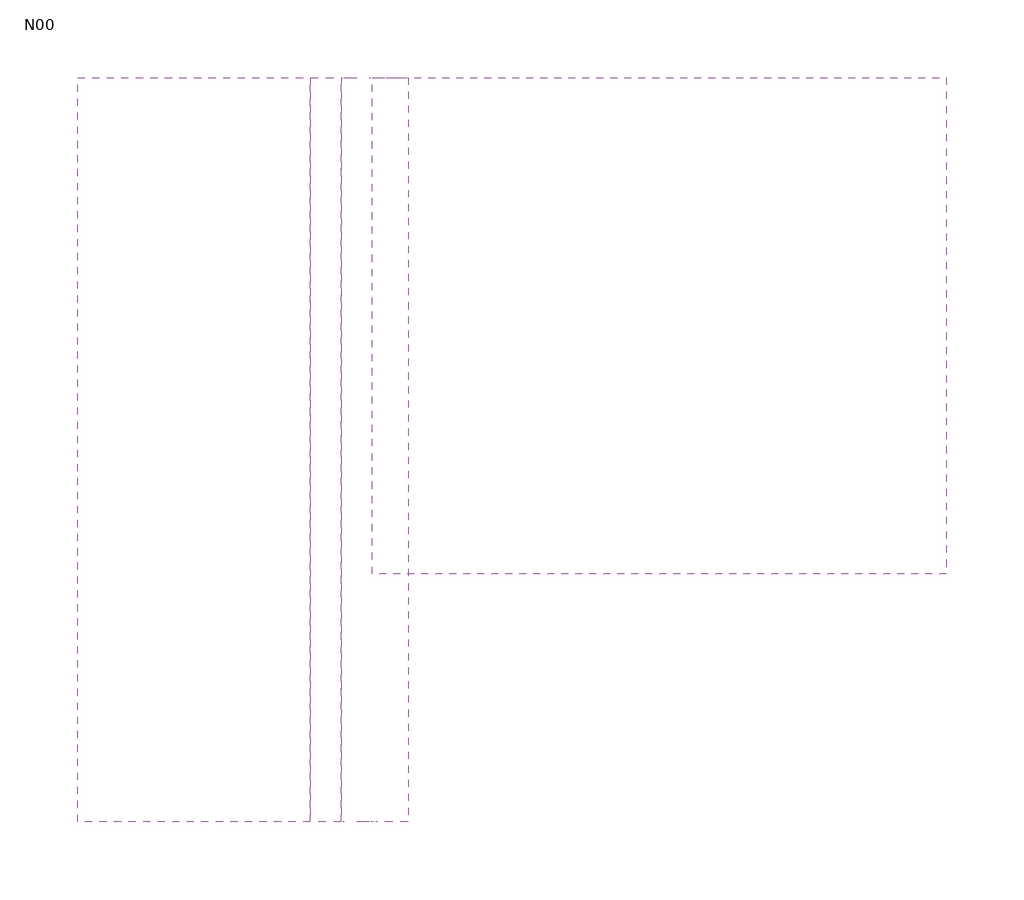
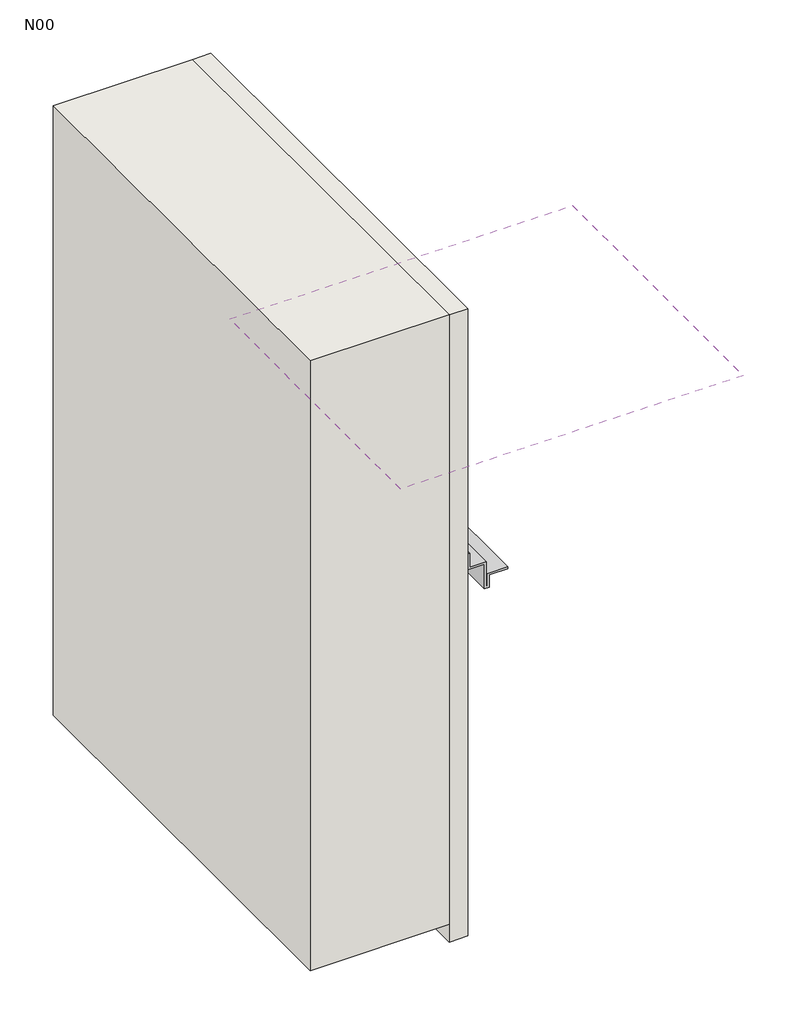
# One storey: 2 walls, 1 covering, 1 proxy.
"""IFC4 building model written with IfcOpenShell, lengths in millimetres."""

from ifc_helpers import new_model, si_unit, frame, origin, place, context, project, spatial, polyline, outline, extrude, faceted_brep, element, save

model = new_model("IFC4")

# Units and contexts
model_context = context("Model", 3, world=origin())
ifc_project = project(units=[si_unit("LENGTHUNIT", "METRE", prefix="MILLI")], contexts=[model_context])

# Site, building, storey
site = spatial("IfcSite", under=ifc_project)
building = spatial("IfcBuilding", under=site)
storey = spatial("IfcBuildingStorey", under=building, Name="N00", Elevation=0.0)

# Proxy
placement = place(None, origin())
element("IfcBuildingElementProxy", 1, Name="ARQ_Tabica_2cm", ObjectType="ARQ_Tabica_2cm", at=placement, inside=storey, context=model_context, shape_type="SweptSolid", body=[
    extrude(outline(polyline([(3030.0, 2172.1983501), (3012.0, 2172.1983501), (3012.0, 2190.1983501), (2984.0, 2190.1983501), (2984.0, 2195.2278402), (2998.0, 2195.2278402), (2998.0, 2215.2278402), (3000.0, 2215.2278402), (3000.0, 2193.2278402), (2986.0, 2193.2278402), (2986.0, 2192.1983501), (3014.0, 2192.1983501), (3014.0, 2174.1983501), (3030.0, 2174.1983501), (3030.0, 2172.1983501)])), frame((0.0, -2812.5992824, 0.0), z_axis=(0.0, 1.0, 0.0), x_axis=(0.0, 0.0, 1.0)), (0.0, 0.0, 1.0), 480.0),
])

# Covering
element("IfcCovering", 2, ObjectType="ForroGesso", at=placement, inside=storey, context=model_context, shape_type="SweptSolid", body=[
    extrude(outline(polyline([(2192.1983501, -2652.5992824), (2192.1983501, -2332.5992824), (2562.1983501, -2332.5992824), (2562.1983501, -2652.5992824), (2192.1983501, -2652.5992824)])), frame((0.0, 0.0, 3000.0), z_axis=(0.0, 0.0, 1.0), x_axis=(1.0, 0.0, 0.0)), (0.0, 0.0, 1.0), 20.0),
])

# Walls
element("IfcWall", 3, ObjectType="ARQ_Parede_TijoloCerâmico_15CM", at=placement, inside=storey, context=model_context, shape_type="SweptSolid", body=[
    extrude(outline(polyline([(2002.1983501, -2812.5992824), (2002.1983501, -2332.5992824), (2152.1983501, -2332.5992824), (2152.1983501, -2812.5992824), (2002.1983501, -2812.5992824)])), frame((0.0, 0.0, 2614.0534598), z_axis=(0.0, 0.0, 1.0), x_axis=(1.0, 0.0, 0.0)), (0.0, 0.0, 1.0), 695.9465402),
])
element("IfcWall", 4, ObjectType="ARQ_Parede_Cerâmica_60x60", at=placement, inside=storey, context=model_context, shape_type="Brep", body=[
    faceted_brep([(2172.1983501, -2812.5992824, 2594.0768795), (2172.1983501, -2332.5992824, 2594.0768795), (2172.1983501, -2332.5992824, 3310.0), (2172.1983501, -2812.5992824, 3310.0), (2152.1983501, -2812.5992824, 2594.0768795), (2152.1983501, -2812.5992824, 2614.0534598), (2152.1983501, -2812.5992824, 3310.0), (2152.1983501, -2332.5992824, 3310.0), (2152.1983501, -2332.5992824, 2614.0534598), (2152.1983501, -2332.5992824, 2594.0768795)], [[[0, 1, 2, 3]], [[4, 5, 6, 7, 8, 9]], [[1, 0, 4, 9]], [[2, 1, 9, 8, 7]], [[3, 2, 7, 6]], [[0, 3, 6, 5, 4]]]),
])

save(model, "model.ifc")
